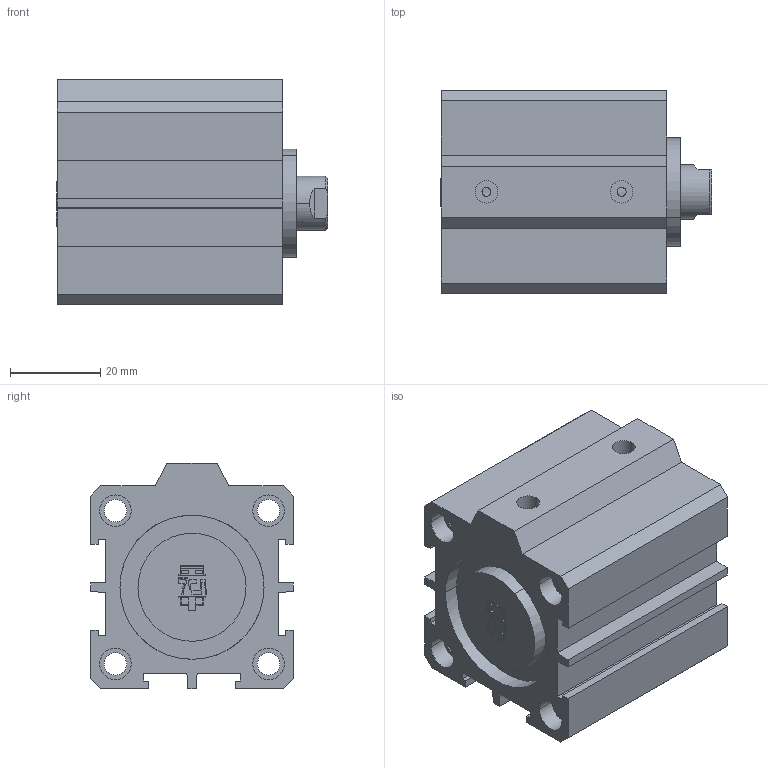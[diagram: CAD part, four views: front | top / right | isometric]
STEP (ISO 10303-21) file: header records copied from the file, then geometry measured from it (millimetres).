
FILE_DESCRIPTION(('CATIA V5 STEP Exchange'),'2;1');
FILE_NAME('D:\PDA\PDA-STP\PDA 32-12\PDA 32-12-15.stp','2016-02-02T10:40:28+00:00',('none'),('none'),'Version 5-6 Release 2012','CATIA V5 STEP AP203','none');
FILE_SCHEMA(('CONFIG_CONTROL_DESIGN'));
Length unit declared in the file: millimetre
Products named in the file (1): PDA 32-12-15-00
Assembly tree (2 placements, depth 2):
  PDA 32-12-15-00
    #58
    #6193
Bounding box: 60.25 x 45 x 50 mm (x, y, z)
Volume: 71426.7 mm3; surface area: 29254.3 mm2
Topology: 2 solids, 2 shells, 233 faces, 602 edges, 404 vertices
Faces by surface type: plane 163, cylinder 68, cone 2
Entity records: 6699 total; most frequent: CARTESIAN_POINT 1225, ORIENTED_EDGE 1204, DIRECTION 900, EDGE_CURVE 602, VECTOR 444, LINE 444, VERTEX_POINT 404, AXIS2_PLACEMENT_3D 301
